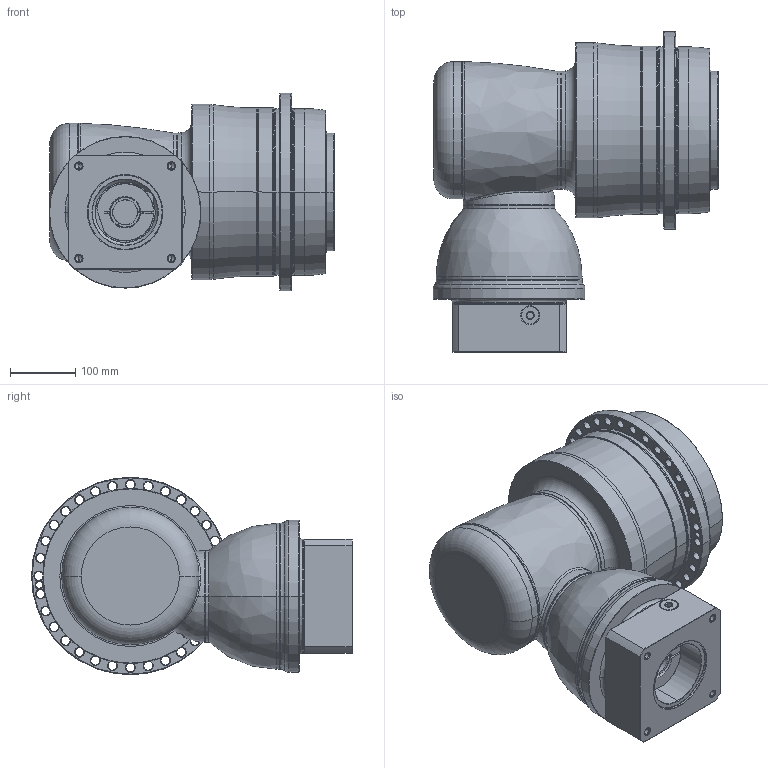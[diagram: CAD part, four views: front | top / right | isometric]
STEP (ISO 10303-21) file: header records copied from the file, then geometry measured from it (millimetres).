
FILE_DESCRIPTION((''),'2;1');
FILE_NAME('APK255_3ST_38-P0409910201_ASM','2018-11-21T',('D00080'),(''),'PRO/ENGINEER BY PARAMETRIC TECHNOLOGY CORPORATION, 2015240','PRO/ENGINEER BY PARAMETRIC TECHNOLOGY CORPORATION, 2015240','');
FILE_SCHEMA(('CONFIG_CONTROL_DESIGN'));
Length unit declared in the file: millimetre
Products named in the file (13): P1008600002; P1832700001; P0278701003; P0359701103; P1211700001; P1315600001; P1007601001; P1318610201; P0503900012; P0912652001; P0409910201; 21711422019; APK255_3ST_38-P0409910201_ASM
Assembly tree (12 placements, depth 2):
  APK255_3ST_38-P0409910201_ASM
    P1008600002
    P1832700001
    P0278701003
    P0359701103
    P1211700001
    P1315600001
    P1007601001
    P1318610201
    P0503900012
    P0912652001
    P0409910201
    21711422019
Bounding box: 436.5 x 490.5 x 302 mm (x, y, z)
Volume: 23883512.6 mm3; surface area: 1484306.4 mm2
Topology: 13 solids, 36 shells, 810 faces, 1892 edges, 1130 vertices
Faces by surface type: cylinder 311, cone 258, plane 121, torus 85, bspline 33, sphere 2
Entity records: 29738 total; most frequent: CARTESIAN_POINT 10534, DIRECTION 4417, ORIENTED_EDGE 3614, AXIS2_PLACEMENT_3D 1891, EDGE_CURVE 1854, VERTEX_POINT 1130, CIRCLE 1077, EDGE_LOOP 954
